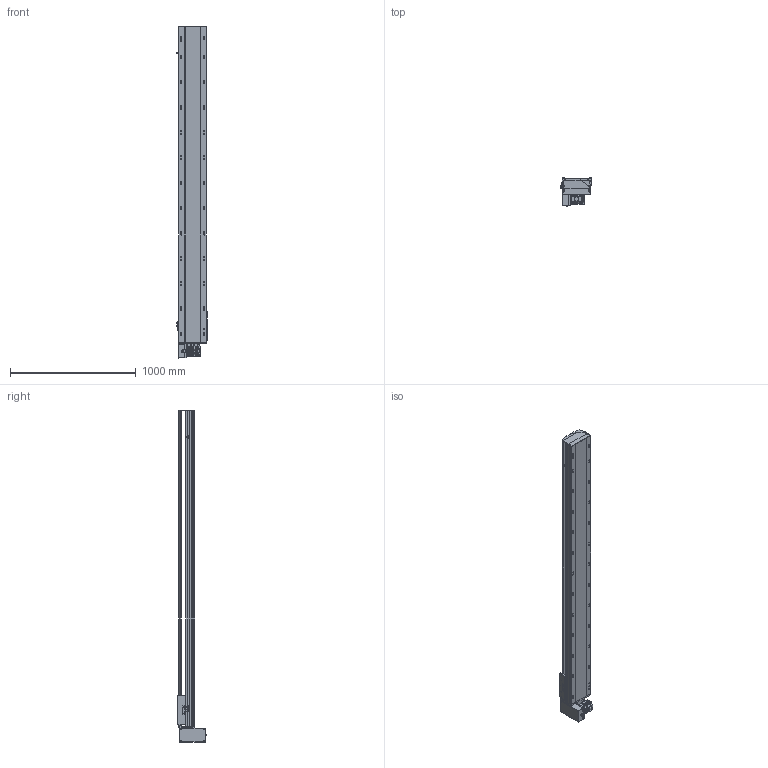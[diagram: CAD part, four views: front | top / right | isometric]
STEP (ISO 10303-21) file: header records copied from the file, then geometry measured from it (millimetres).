
FILE_DESCRIPTION (( 'STEP AP214' ), '1' );
FILE_NAME ('TPT22M-L40-2150-RD-T75-C4.STEP', '2023-04-12T02:33:43', ( '' ), ( '' ), 'SwSTEP 2.0', 'SolidWorks 2020', '' );
FILE_SCHEMA (( 'AUTOMOTIVE_DESIGN' ));
Length unit declared in the file: millimetre
Products named in the file (9): 葩璃 TPT22-L-007 々湍釱^TPT22M-L40-RD-T75-C4; 葩璃 pm-t65-672^TPT22M-L40-RD-T75-C4; 葩璃 TPT22-L-009 萇儂啣^TPT22M-L40-RD-T75-C4; hexagon head bolts-full thread gb_GB_FASTENER_BOLT_STBAB A M5X16-N; 葩璃 MSMD08PC_P75^TPT22M-L40-RD-T75-C4; 葩璃 TPT22-L-001 菁釱MZ-220-01^TPT22M-L40-RD-T75-C4; 葩璃 TPT22-L-005 賑釱MZ-220-03^TPT22M-L40-RD-T75-C4; 葩璃 TPT22-L-002 奻裔MZ-220-02^TPT22M-L40-RD-T75-C4; TPT22M-L40-2150-RD-T75-C4
Assembly tree (10 placements, depth 2):
  TPT22M-L40-2150-RD-T75-C4
    葩璃 TPT22-L-001 菁釱MZ-220-01^TPT22M-L40-RD-T75-C4
    葩璃 TPT22-L-002 奻裔MZ-220-02^TPT22M-L40-RD-T75-C4
    葩璃 TPT22-L-005 賑釱MZ-220-03^TPT22M-L40-RD-T75-C4
    葩璃 TPT22-L-007 々湍釱^TPT22M-L40-RD-T75-C4
    葩璃 TPT22-L-009 萇儂啣^TPT22M-L40-RD-T75-C4
    葩璃 pm-t65-672^TPT22M-L40-RD-T75-C4  x3
    葩璃 MSMD08PC_P75^TPT22M-L40-RD-T75-C4
    hexagon head bolts-full thread gb_GB_FASTENER_BOLT_STBAB A M5X16-N
Bounding box: 238.7 x 225.65 x 2636 mm (x, y, z)
Volume: 35263640.4 mm3; surface area: 3539098.7 mm2
Topology: 17 solids, 17 shells, 1871 faces, 4925 edges, 3141 vertices
Faces by surface type: plane 989, cylinder 716, cone 144, bspline 22
Entity records: 53867 total; most frequent: CARTESIAN_POINT 10805, DIRECTION 8720, ORIENTED_EDGE 8346, EDGE_CURVE 4173, AXIS2_PLACEMENT_3D 3027, VERTEX_POINT 2713, LINE 2666, VECTOR 2666
